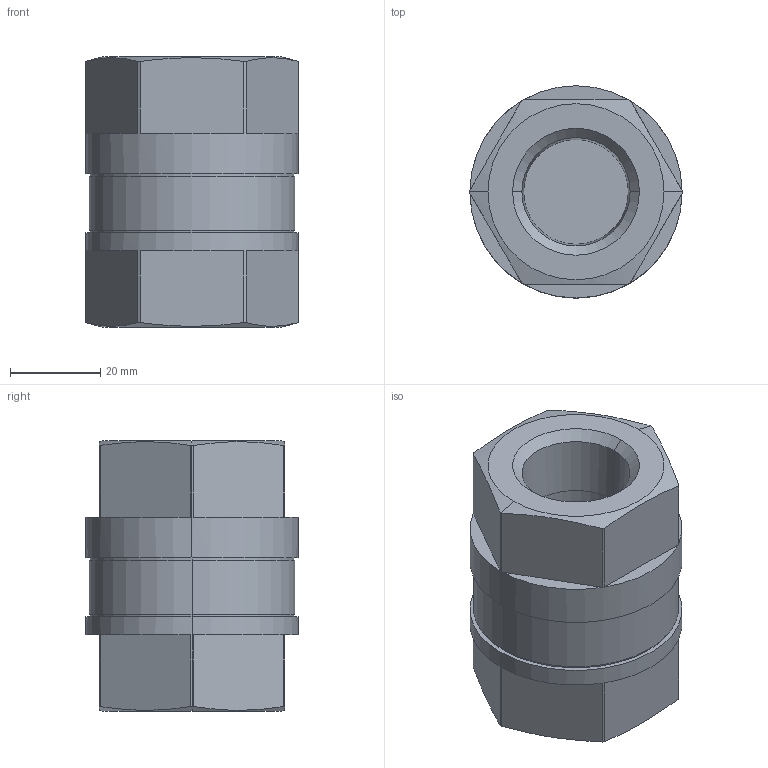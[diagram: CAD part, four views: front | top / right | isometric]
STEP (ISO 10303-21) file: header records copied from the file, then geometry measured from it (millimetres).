
FILE_DESCRIPTION( (''), '2;1');
FILE_NAME ('PC1276.4340.20A_13417.stp','2023-07-04T16:31:22',(''),(''),'spGate 19.8.4 (****-****-****-****)','','');
FILE_SCHEMA (('AUTOMOTIVE_DESIGN'));
Length unit declared in the file: millimetre
Bounding box: 47 x 47 x 60 mm (x, y, z)
Volume: 76195.3 mm3; surface area: 15038.5 mm2
Topology: 1 solids, 1 shells, 66 faces, 154 edges, 98 vertices
Faces by surface type: plane 34, bspline 18, cylinder 14
Entity records: 3339 total; most frequent: CARTESIAN_POINT 646, ORIENTED_EDGE 308, DIRECTION 280, COLOUR_RGB 221, PRESENTATION_STYLE_ASSIGNMENT 221, STYLED_ITEM 221, EDGE_CURVE 154, DRAUGHTING_PRE_DEFINED_CURVE_FONT 154
